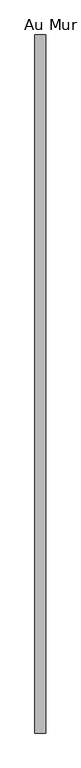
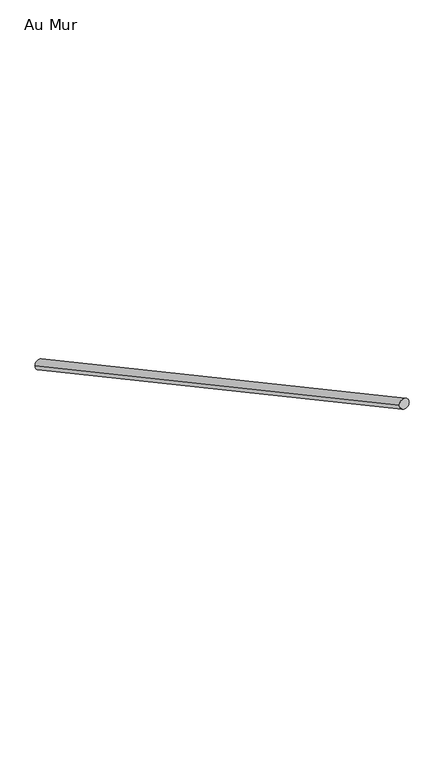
"""IFC4 building model written with IfcOpenShell, lengths in millimetres: railing geometry, Au Mur."""

import ifcopenshell
import ifcopenshell.guid

model = None  # the IFC model being written
_history = None  # IfcOwnerHistory: only IFC2X3 demands one
_inside = {}  # id of a spatial element -> (the spatial element, [elements in it])
_under = {}  # id of a project, library or spatial element -> (it, [spatial elements below it])
_declared = {}  # id of a project -> (the project, [libraries it declares])
_typed = {}  # id of a type object -> (the type object, [elements of that type])
_made_of = {}  # id of a material, layer set ... -> (it, [elements and type objects made of it])


def new_model(schema):
    """Start an empty IFC model of exactly this schema.

    Asked for "IFC4X3", IfcOpenShell would pick the latest addendum, in which some entities
    have other attributes; the version numbers below select the first issue.
    IFC2X3 requires an IfcOwnerHistory on every rooted entity: one is made here for all.
    """
    global model, _history
    if schema == "IFC4X3":
        model = ifcopenshell.file(schema_version=(4, 3, 0, 0))
    else:
        model = ifcopenshell.file(schema=schema)
    _inside.clear()
    _under.clear()
    _declared.clear()
    _typed.clear()
    _made_of.clear()
    _history = None
    if model.schema == "IFC2X3":
        org = make("IfcOrganization", Name="unknown")
        user = make(
            "IfcPersonAndOrganization",
            ThePerson=make("IfcPerson", FamilyName="unknown"),
            TheOrganization=org,
        )
        app = make(
            "IfcApplication",
            ApplicationDeveloper=org,
            Version="unknown",
            ApplicationFullName="unknown",
            ApplicationIdentifier="unknown",
        )
        _history = make(
            "IfcOwnerHistory",
            OwningUser=user,
            OwningApplication=app,
            ChangeAction="ADDED",
            CreationDate=0,
        )
    return model


def make(cls, **values):
    """One entity of the class cls with the attributes given. An attribute that is None is left unset."""
    return model.create_entity(
        cls, **{name: value for name, value in values.items() if value is not None}
    )


def rooted(cls, **values):
    """An entity with a GlobalId (a new one), such as an element, a storey or a relation."""
    return make(cls, GlobalId=ifcopenshell.guid.new(), OwnerHistory=_history, **values)


def si_unit(unit_type, name, prefix=None):
    """IfcSIUnit, for example si_unit("LENGTHUNIT", "METRE", prefix="MILLI")."""
    return make("IfcSIUnit", UnitType=unit_type, Prefix=prefix, Name=name)


def assignment(units):
    """IfcUnitAssignment: the units of a project."""
    return None if units is None else make("IfcUnitAssignment", Units=units)


def point(xyz):
    """IfcCartesianPoint."""
    return None if xyz is None else make("IfcCartesianPoint", Coordinates=xyz)


def direction(xyz):
    """IfcDirection."""
    return None if xyz is None else make("IfcDirection", DirectionRatios=xyz)


def frame(location, z_axis=None, x_axis=None):
    """IfcAxis2Placement3D, a coordinate frame: its origin and axes. An axis left out is left unset."""
    return make(
        "IfcAxis2Placement3D",
        Location=point(location),
        Axis=direction(z_axis),
        RefDirection=direction(x_axis),
    )


def origin():
    """The frame at (0, 0, 0) with its axes left unset."""
    return frame((0.0, 0.0, 0.0))


def place(relative_to, where):
    """IfcLocalPlacement: puts the frame where relative to a parent placement (None: the world)."""
    return make(
        "IfcLocalPlacement", PlacementRelTo=relative_to, RelativePlacement=where
    )


def context(
    kind, dimensions, precision=None, world=None, true_north=None, identifier=None
):
    """IfcGeometricRepresentationContext, for example the 3D "Model" context."""
    return make(
        "IfcGeometricRepresentationContext",
        ContextIdentifier=identifier,
        ContextType=kind,
        CoordinateSpaceDimension=dimensions,
        Precision=precision,
        WorldCoordinateSystem=world,
        TrueNorth=true_north,
    )


def project(units=None, contexts=None):
    """IfcProject with its units and contexts."""
    return rooted(
        "IfcProject",
        Name="project",
        RepresentationContexts=contexts,
        UnitsInContext=assignment(units),
    )


def spatial(cls, under=None, at=None, **own):
    """A site, building, storey or space (cls), placed at a placement, below another one or the project."""
    s = rooted(cls, ObjectPlacement=at, **own)
    if under is not None:
        _under.setdefault(under.id(), (under, []))[1].append(s)
    return s


def ellipse_curve(where, semi_axis1, semi_axis2):
    """IfcEllipse in the frame where."""
    return make(
        "IfcEllipse", Position=where, SemiAxis1=semi_axis1, SemiAxis2=semi_axis2
    )


def shape(context_of_items, identifier, shape_type, items):
    """IfcShapeRepresentation: the items that make up one representation, for example the "Body"."""
    return make(
        "IfcShapeRepresentation",
        ContextOfItems=context_of_items,
        RepresentationIdentifier=identifier,
        RepresentationType=shape_type,
        Items=items,
    )


def source(mapping_origin, context_of_items, identifier, shape_type, items):
    """IfcRepresentationMap: a shape defined once, which mapped items show again and again."""
    return make(
        "IfcRepresentationMap",
        MappingOrigin=mapping_origin,
        MappedRepresentation=shape(context_of_items, identifier, shape_type, items),
    )


def transform(
    local_origin,
    x_axis=None,
    y_axis=None,
    z_axis=None,
    scale=None,
    scale2=None,
    scale3=None,
    uniform=True,
):
    """IfcCartesianTransformationOperator3D, or its non-uniform kind. x_axis, y_axis, z_axis: its Axis1, 2, 3."""
    if uniform:
        return make(
            "IfcCartesianTransformationOperator3D",
            Axis1=direction(x_axis),
            Axis2=direction(y_axis),
            LocalOrigin=point(local_origin),
            Scale=scale,
            Axis3=direction(z_axis),
        )
    return make(
        "IfcCartesianTransformationOperator3DnonUniform",
        Axis1=direction(x_axis),
        Axis2=direction(y_axis),
        LocalOrigin=point(local_origin),
        Scale=scale,
        Axis3=direction(z_axis),
        Scale2=scale2,
        Scale3=scale3,
    )


def mapped(mapping_source, mapping_target):
    """IfcMappedItem: shows the shape of a source again, moved by a transform."""
    return make(
        "IfcMappedItem", MappingSource=mapping_source, MappingTarget=mapping_target
    )


def made_of(thing, what):
    """Note that an element or type object is made of a material, layer set ...; save() writes the relation."""
    if what is not None:
        _made_of.setdefault(what.id(), (what, []))[1].append(thing)
    return thing


def element(
    cls,
    number,
    at=None,
    inside=None,
    cuts=None,
    type_object=None,
    material=None,
    context=None,
    identifier="Body",
    shape_type=None,
    held_by="IfcProductDefinitionShape",
    body=None,
    shapes=None,
    **own,
):
    """One element of the class cls, such as IfcWall. Its Tag is "e" and its number.

    at: its placement. inside: the storey or other place that contains it. cuts: it is an
    opening in that element (IfcRelVoidsElement). A single representation is given by context,
    identifier, shape_type and body (its items); several are given by shapes. held_by: the class
    of the entity that holds the representations. save() writes the other relations.
    """
    e = rooted(cls, Tag="e%d" % number, ObjectPlacement=at, **own)
    if body is not None:
        shapes = [shape(context, identifier, shape_type, body)]
    if shapes is not None:
        e.Representation = make(held_by, Representations=shapes)
    if inside is not None:
        _inside.setdefault(inside.id(), (inside, []))[1].append(e)
    if cuts is not None:
        rooted(
            "IfcRelVoidsElement", RelatingBuildingElement=cuts, RelatedOpeningElement=e
        )
    if type_object is not None:
        _typed.setdefault(type_object.id(), (type_object, []))[1].append(e)
    return made_of(e, material)


def aggregate(whole, parts):
    """IfcRelAggregates: a whole, such as a stair, and the parts it consists of."""
    return rooted("IfcRelAggregates", RelatingObject=whole, RelatedObjects=parts)


def save(model, path):
    """Write the relations noted so far, then the file.

    IfcRelAggregates (storeys below a building ...), IfcRelContainedInSpatialStructure (elements
    in a storey), IfcRelDefinesByType, IfcRelAssociatesMaterial and IfcRelDeclares: one each for
    every whole, place, type object, material and project.
    """
    for whole, parts in _under.values():
        aggregate(whole, parts)
    for where, things in _inside.values():
        rooted(
            "IfcRelContainedInSpatialStructure",
            RelatedElements=things,
            RelatingStructure=where,
        )
    for kind, things in _typed.values():
        rooted("IfcRelDefinesByType", RelatedObjects=things, RelatingType=kind)
    for what, things in _made_of.values():
        rooted("IfcRelAssociatesMaterial", RelatedObjects=things, RelatingMaterial=what)
    for by, libraries in _declared.values():
        rooted("IfcRelDeclares", RelatingContext=by, RelatedDefinitions=libraries)
    model.write(path)


def plane_surface(at):
    """IfcPlane: the flat surface through the origin of the frame at, square to its z axis."""
    return make("IfcPlane", Position=at)


def cylinder_surface(at, radius):
    """IfcCylindricalSurface: all points at the distance radius from the z axis of the frame at."""
    return make("IfcCylindricalSurface", Position=at, Radius=radius)


def advanced_brep(points, edges, surfaces, faces):
    """IfcAdvancedBrep: a solid bounded by faces that lie on surfaces and meet in shared edges.

    An edge is (start, end): straight between two places in points (the first is 0);
    or (start, end, curve); or (start, end, curve, False) where it runs against its curve.
    A face is (place in surfaces, loops), or (place, loops, False) where it looks against
    its surface's normal. A loop lists edges by number (the first is 1), with a minus sign
    where the edge is run from its end to its start. The first loop is the outer one.
    """
    corners = [point(p) for p in points]
    vertices = [make("IfcVertexPoint", VertexGeometry=c) for c in corners]
    made = []
    for start, end, *more in edges:
        made.append(
            make(
                "IfcEdgeCurve",
                EdgeStart=vertices[start],
                EdgeEnd=vertices[end],
                EdgeGeometry=more[0] if more else make("IfcPolyline", Points=[corners[start], corners[end]]),
                SameSense=more[1] if len(more) > 1 else True,
            )
        )
    hull = []
    for where, loops, *sense in faces:
        bounds = []
        for j, loop in enumerate(loops):
            ring = [make("IfcOrientedEdge", EdgeElement=made[abs(k) - 1], Orientation=k > 0) for k in loop]
            bounds.append(
                make(
                    "IfcFaceOuterBound" if j == 0 else "IfcFaceBound",
                    Bound=make("IfcEdgeLoop", EdgeList=ring),
                    Orientation=True,
                )
            )
        hull.append(make("IfcAdvancedFace", Bounds=bounds, FaceSurface=surfaces[where], SameSense=sense[0] if sense else True))
    return make("IfcAdvancedBrep", Outer=make("IfcClosedShell", CfsFaces=hull))


def au_mur_dd5918b3(model_context):
    return source(origin(), model_context, "Body", "AdvancedBrep", [
        advanced_brep(
        [(-18703.6938634, 16026.177026, 717.5097142), (-18733.6938634, 16026.177026, 717.5097142), (-18703.6938634, 14066.177026, 1776.2597142), (-18733.6938634, 14066.177026, 1776.2597142)],
        [
            (0, 1, ellipse_curve(frame((-18718.6938634, 16026.177026, 717.5097142), z_axis=(0.0, 1.0, 0.0), x_axis=(0.0, 0.0, -1.0)), 17.0485601, 15.0)),
            (1, 0, ellipse_curve(frame((-18718.6938634, 16026.177026, 717.5097142), z_axis=(0.0, 1.0, 0.0), x_axis=(0.0, 0.0, -1.0)), 17.0485601, 15.0)),
            (2, 3, ellipse_curve(frame((-18718.6938634, 14066.177026, 1776.2597142), z_axis=(0.0, -1.0, 0.0), x_axis=(0.0, 0.0, -1.0)), 17.0485601, 15.0)),
            (3, 2, ellipse_curve(frame((-18718.6938634, 14066.177026, 1776.2597142), z_axis=(0.0, -1.0, 0.0), x_axis=(0.0, 0.0, -1.0)), 17.0485601, 15.0)),
            (0, 2),
            (3, 1),
        ],
        [
            plane_surface(frame((-18718.6938634, 16026.177026, 734.5582742), z_axis=(0.0, 1.0, 0.0), x_axis=(0.0, 0.0, -1.0))),
            plane_surface(frame((-18718.6938634, 14066.177026, 1793.3082742), z_axis=(0.0, -1.0, 0.0), x_axis=(0.0, 0.0, -1.0))),
            cylinder_surface(frame((-18718.6938634, 16019.0479677, 721.3606787), z_axis=(0.0, 0.8798397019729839, -0.47527055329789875), x_axis=(-1.0, 0.0, 0.0)), 15.0),
        ],
        [
            (0, [[1, 2]]),
            (1, [[3, 4]]),
            (2, [[-1, 5, -4, 6]]),
            (2, [[-2, -6, -3, -5]]),
        ],
    ),
    ])


if __name__ == "__main__":
    model = new_model("IFC4")
    model_context = context("Model", 3, world=origin())
    ifc_project = project(units=[si_unit("LENGTHUNIT", "METRE", prefix="MILLI")], contexts=[model_context])
    site = spatial("IfcSite", under=ifc_project)
    building = spatial("IfcBuilding", under=site)
    placement = place(None, origin())
    au_mur_shape = au_mur_dd5918b3(model_context)
    element("IfcRailing", 1, ObjectType="Au Mur", at=placement, inside=building, context=model_context, shape_type="MappedRepresentation", body=[
        mapped(au_mur_shape, transform((0.0, 0.0, 0.0), x_axis=(1.0, 0.0, 0.0), y_axis=(0.0, 1.0, 0.0), z_axis=(0.0, 0.0, 1.0))),
    ])
    save(model, "model.ifc")
